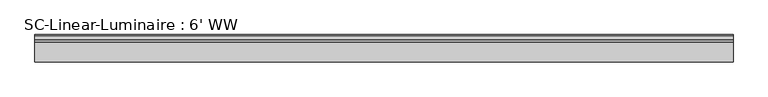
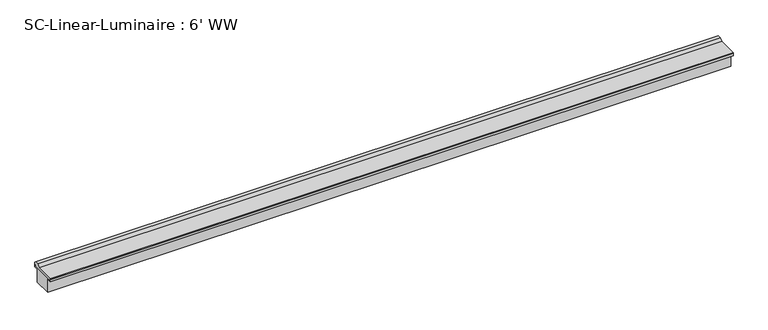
"""IFC4 building model written with IfcOpenShell, lengths in millimetres: light fixture geometry, SC-Linear-Luminaire : 6' WW."""

from ifc_helpers import new_model, si_unit, frame, origin, place, context, project, spatial, polyline, outline, extrude, source, transform, mapped, element, save


def sc_linear_luminaire_6_ww_00255d47(model_context):
    return source(origin(), model_context, "Body", "SweptSolid", [
        extrude(outline(polyline([(33.02, 66.5757209), (29.845, 66.5757209), (29.845, 62.6426128), (-29.845, 62.6426128), (-29.845, 66.5757209), (-33.02, 66.5757209), (-33.02, 68.3937716), (15.3532116, 68.3937716), (21.7032116, 74.7437716), (29.3990509, 74.7437716), (33.02, 71.1228225), (33.02, 66.5757209)])), frame((-838.2, 0.0, 0.0), z_axis=(1.0, 0.0, 0.0), x_axis=(0.0, 1.0, 0.0)), (0.0, 0.0, 1.0), 1676.4),
        extrude(outline(polyline([(33.02, 66.5757209), (33.02, 60.325), (22.225, 60.325), (22.225, 26.45), (-22.225, 26.45), (-22.225, 60.325), (-33.02, 60.325), (-33.02, 66.5757209), (-29.845, 66.5757209), (-29.845, 62.6426128), (29.845, 62.6426128), (29.845, 66.5757209), (33.02, 66.5757209)])), frame((-838.2, 0.0, 0.0), z_axis=(1.0, 0.0, 0.0), x_axis=(0.0, 1.0, 0.0)), (0.0, 0.0, 1.0), 1676.4),
    ])


if __name__ == "__main__":
    model = new_model("IFC4")
    model_context = context("Model", 3, world=origin())
    ifc_project = project(units=[si_unit("LENGTHUNIT", "METRE", prefix="MILLI")], contexts=[model_context])
    site = spatial("IfcSite", under=ifc_project)
    building = spatial("IfcBuilding", under=site)
    placement = place(None, origin())
    sc_linear_luminaire_6_ww_shape = sc_linear_luminaire_6_ww_00255d47(model_context)
    element("IfcLightFixture", 1, ObjectType="SC-Linear-Luminaire : 6' WW", at=placement, inside=building, context=model_context, shape_type="MappedRepresentation", body=[
        mapped(sc_linear_luminaire_6_ww_shape, transform((0.0, 0.0, 0.0), x_axis=(1.0, 0.0, 0.0), y_axis=(0.0, 1.0, 0.0), z_axis=(0.0, 0.0, 1.0))),
    ])
    save(model, "model.ifc")
